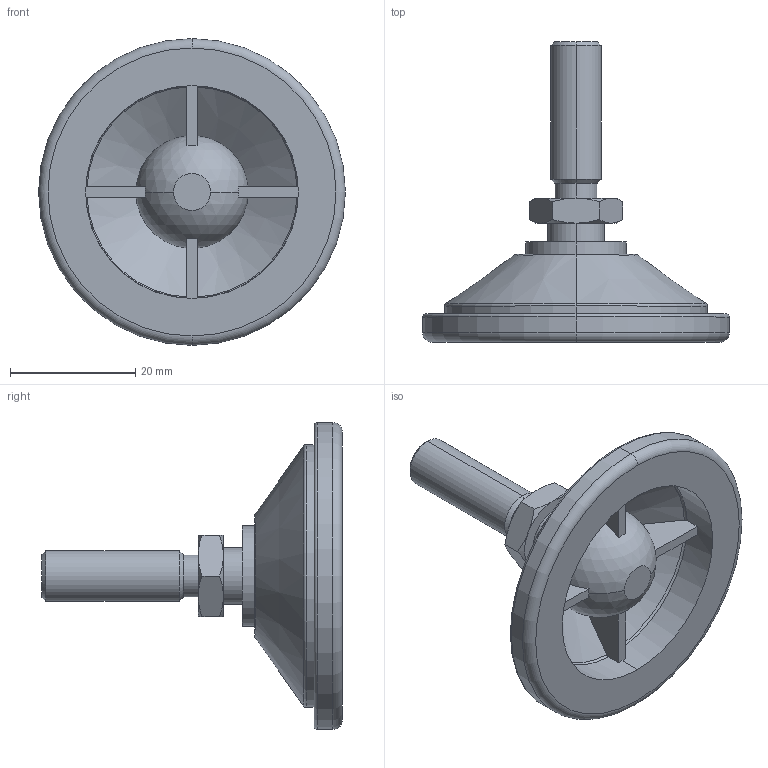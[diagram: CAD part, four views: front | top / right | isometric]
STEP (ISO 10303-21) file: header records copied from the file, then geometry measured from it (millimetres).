
FILE_DESCRIPTION (( 'STEP AP203' ), '1' );
FILE_NAME ('3472.W081.step', '2009-10-21T16:57:45', ( 'Wixroyd' ), ( 'Wixroyd' ), 'SwSTEP 2.0', 'SolidWorks 2009', '' );
FILE_SCHEMA (( 'CONFIG_CONTROL_DESIGN' ));
Length unit declared in the file: millimetre
Products named in the file (3): 3472.W081; Part1_3472W081; Part2_3472W081
Assembly tree (2 placements, depth 2):
  3472.W081
    Part2_3472W081
    Part1_3472W081
Bounding box: 49 x 48 x 49 mm (x, y, z)
Volume: 12704.3 mm3; surface area: 8617.3 mm2
Topology: 2 solids, 2 shells, 95 faces, 231 edges, 145 vertices
Faces by surface type: plane 39, cone 22, cylinder 16, torus 12, sphere 6
Entity records: 3189 total; most frequent: CARTESIAN_POINT 664, DIRECTION 514, ORIENTED_EDGE 446, AXIS2_PLACEMENT_3D 231, EDGE_CURVE 223, VERTEX_POINT 141, CIRCLE 131, EDGE_LOOP 104
